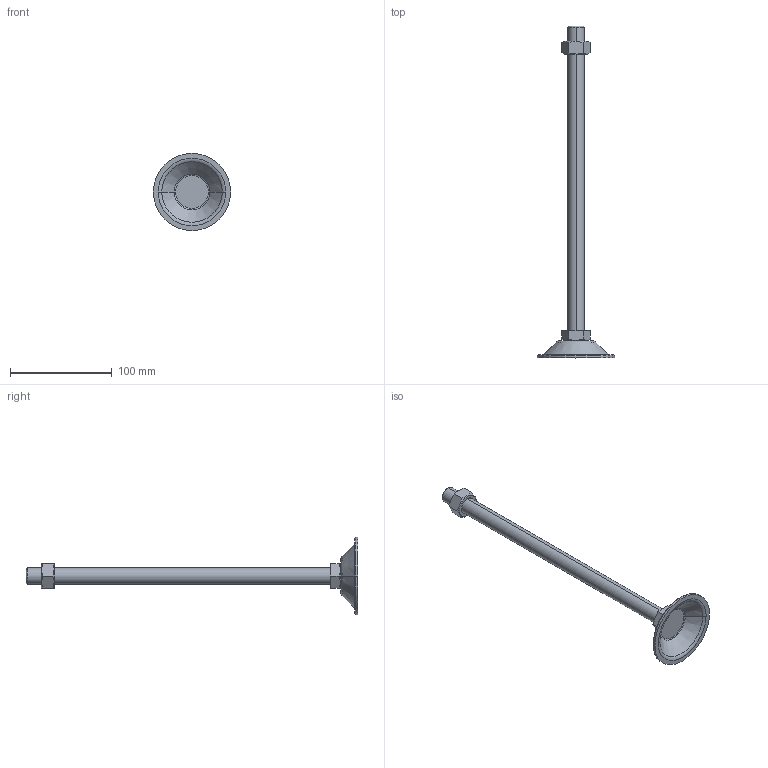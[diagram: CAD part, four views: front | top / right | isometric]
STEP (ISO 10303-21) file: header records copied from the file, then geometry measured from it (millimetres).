
FILE_DESCRIPTION (( 'STEP AP214' ), '1' );
FILE_NAME ('BL76-M16-300.step', '2021-01-06T05:40:13', ( '' ), ( '' ), 'SwSTEP 2.0', 'SolidWorks 2019', '' );
FILE_SCHEMA (( 'AUTOMOTIVE_DESIGN' ));
Length unit declared in the file: millimetre
Products named in the file (1): BL76-M16-300
Bounding box: 76 x 327 x 76 mm (x, y, z)
Volume: 85088.9 mm3; surface area: 30399.6 mm2
Topology: 3 solids, 3 shells, 53 faces, 110 edges, 66 vertices
Faces by surface type: plane 21, cone 16, torus 10, cylinder 6
Entity records: 1618 total; most frequent: CARTESIAN_POINT 428, DIRECTION 252, ORIENTED_EDGE 220, EDGE_CURVE 110, AXIS2_PLACEMENT_3D 106, VERTEX_POINT 66, EDGE_LOOP 58, FACE_OUTER_BOUND 53
